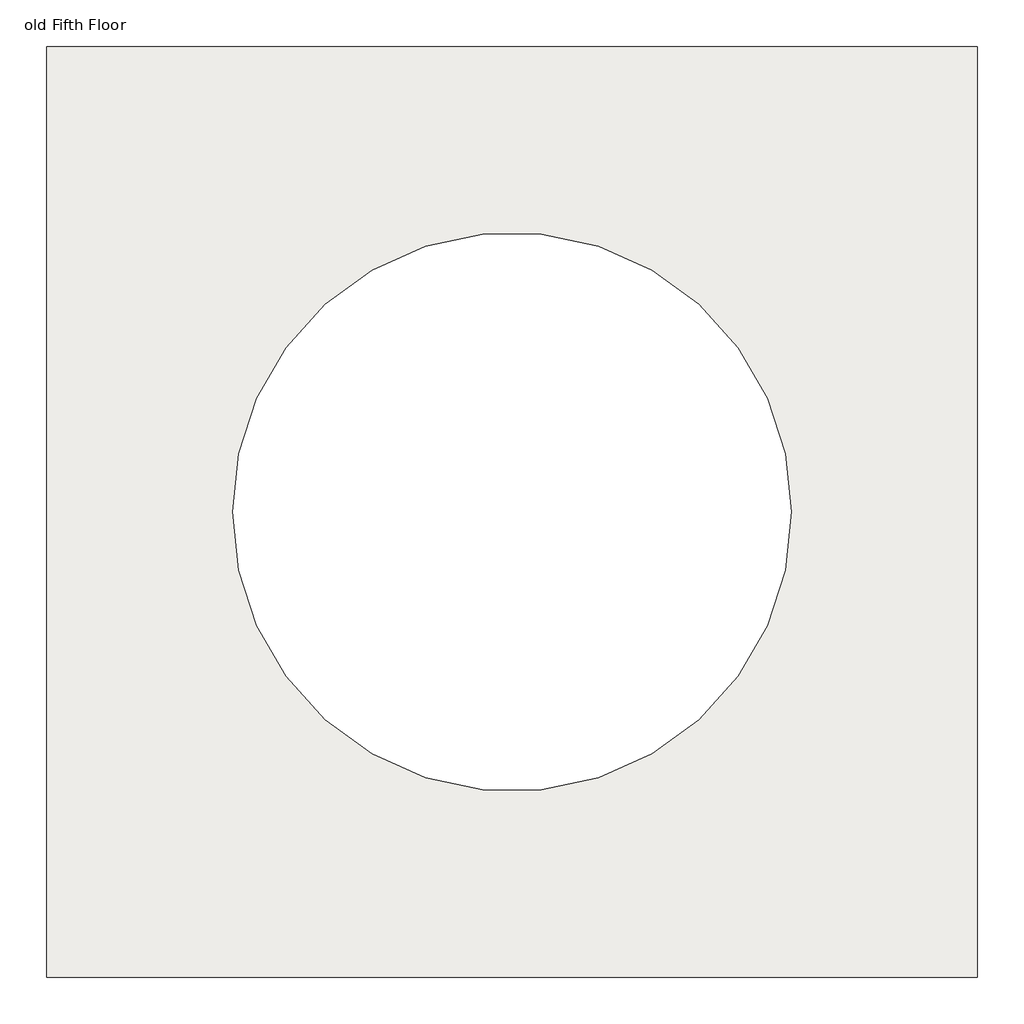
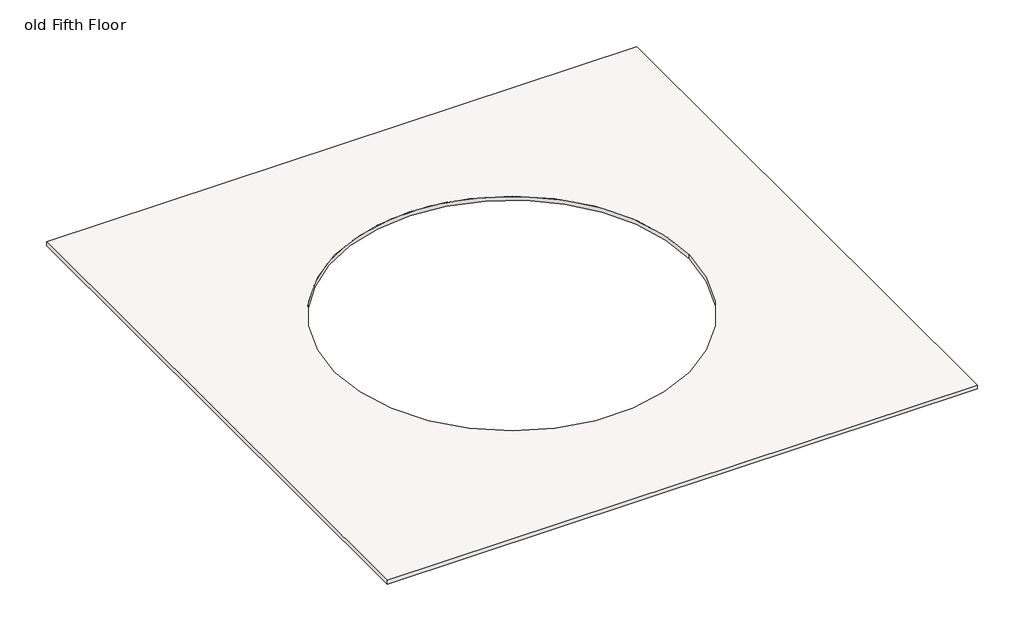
# One storey: 1 slab.
"""IFC4 building model written with IfcOpenShell, lengths in millimetres."""

from ifc_helpers import new_model, si_unit, point, frame, frame_2d, origin, place, context, project, spatial, polyline, circle_curve, trimmed, segment, composite_curve, outline, extrude, element, save

model = new_model("IFC4")

# Units and contexts
model_context = context("Model", 3, world=origin())
ifc_project = project(units=[si_unit("LENGTHUNIT", "METRE", prefix="MILLI")], contexts=[model_context])

# Site, building, storey
site = spatial("IfcSite", under=ifc_project)
building = spatial("IfcBuilding", under=site)
storey = spatial("IfcBuildingStorey", under=building, Name="old Fifth Floor", Elevation=12192.0)

# Slab
placement = place(None, origin())
element("IfcSlab", 1, ObjectType="LW Concrete on Metal Deck", at=placement, inside=storey, context=model_context, shape_type="SweptSolid", body=[
    extrude(outline(polyline([(7308.8955952, 7299.8851347), (7308.8955952, -7940.1148653), (-7931.1044048, -7940.1148653), (-7931.1044048, 7299.8851347), (7308.8955952, 7299.8851347)]), holes=[composite_curve([segment(trimmed(circle_curve(frame_2d((-311.1044048, -320.1148653)), 4572.0), [point((4260.8955952, -320.1148653))], [point((-4883.1044048, -320.1148653))], True, "CARTESIAN"), True, "CONTINUOUS"), segment(trimmed(circle_curve(frame_2d((-311.1044048, -320.1148653)), 4572.0), [point((-4883.1044048, -320.1148653))], [point((4260.8955952, -320.1148653))], True, "CARTESIAN"), True, "CONTINUOUS")], self_intersect=False)]), frame((0.0, 0.0, 12087.225), z_axis=(0.0, 0.0, 1.0), x_axis=(1.0, 0.0, 0.0)), (0.0, 0.0, 1.0), 104.775),
])

save(model, "model.ifc")
